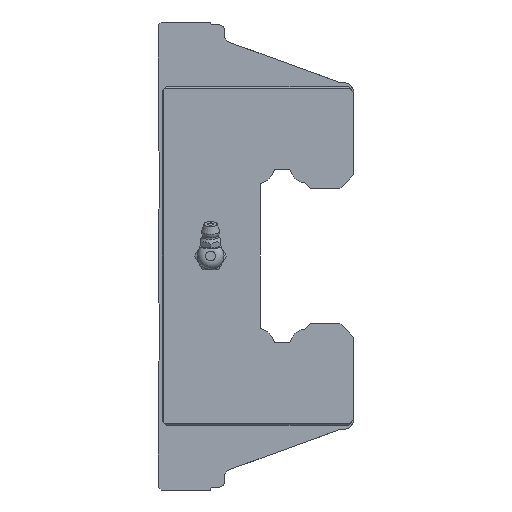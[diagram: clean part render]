
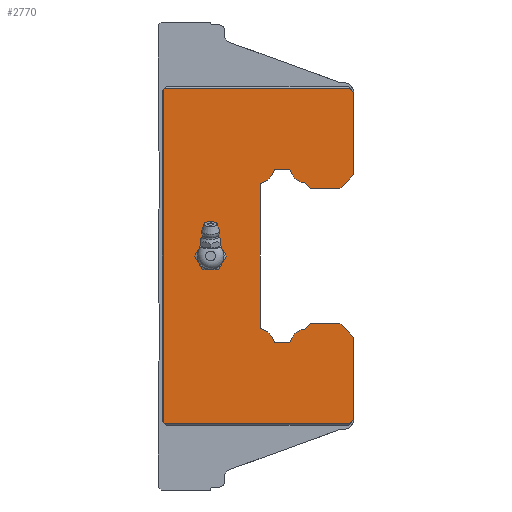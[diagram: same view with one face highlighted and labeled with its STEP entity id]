
A CAD part, left-side view. The second image highlights one B-rep face of the part: STEP entity #2770.
In plain terms, the highlighted planar face has unit normal (-1, 0, 0).
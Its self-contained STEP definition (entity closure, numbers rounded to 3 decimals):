
#188=LINE('',#4126,#450);
#189=LINE('',#4129,#451);
#190=LINE('',#4131,#452);
#191=LINE('',#4133,#453);
#192=LINE('',#4135,#454);
#193=LINE('',#4137,#455);
#194=LINE('',#4139,#456);
#195=LINE('',#4141,#457);
#196=LINE('',#4143,#458);
#197=LINE('',#4145,#459);
#198=LINE('',#4149,#460);
#199=LINE('',#4151,#461);
#200=LINE('',#4153,#462);
#201=LINE('',#4157,#463);
#202=LINE('',#4159,#464);
#203=LINE('',#4161,#465);
#204=LINE('',#4165,#466);
#205=LINE('',#4167,#467);
#206=LINE('',#4169,#468);
#207=LINE('',#4173,#469);
#208=LINE('',#4175,#470);
#209=LINE('',#4177,#471);
#210=LINE('',#4179,#472);
#211=LINE('',#4181,#473);
#450=VECTOR('',#3301,1000.);
#451=VECTOR('',#3302,1000.);
#452=VECTOR('',#3303,1000.);
#453=VECTOR('',#3304,1000.);
#454=VECTOR('',#3305,1000.);
#455=VECTOR('',#3306,1000.);
#456=VECTOR('',#3307,1000.);
#457=VECTOR('',#3308,1000.);
#458=VECTOR('',#3309,1000.);
#459=VECTOR('',#3310,1000.);
#460=VECTOR('',#3313,1000.);
#461=VECTOR('',#3314,1000.);
#462=VECTOR('',#3315,1000.);
#463=VECTOR('',#3318,1000.);
#464=VECTOR('',#3319,1000.);
#465=VECTOR('',#3320,1000.);
#466=VECTOR('',#3323,1000.);
#467=VECTOR('',#3324,1000.);
#468=VECTOR('',#3325,1000.);
#469=VECTOR('',#3328,1000.);
#470=VECTOR('',#3329,1000.);
#471=VECTOR('',#3330,1000.);
#472=VECTOR('',#3331,1000.);
#473=VECTOR('',#3332,1000.);
#727=ORIENTED_EDGE('',*,*,#1517,.T.);
#728=ORIENTED_EDGE('',*,*,#1518,.F.);
#729=ORIENTED_EDGE('',*,*,#1519,.F.);
#730=ORIENTED_EDGE('',*,*,#1520,.T.);
#731=ORIENTED_EDGE('',*,*,#1521,.F.);
#732=ORIENTED_EDGE('',*,*,#1522,.T.);
#733=ORIENTED_EDGE('',*,*,#1523,.F.);
#734=ORIENTED_EDGE('',*,*,#1524,.F.);
#735=ORIENTED_EDGE('',*,*,#1525,.T.);
#736=ORIENTED_EDGE('',*,*,#1526,.T.);
#737=ORIENTED_EDGE('',*,*,#1527,.T.);
#738=ORIENTED_EDGE('',*,*,#1528,.F.);
#739=ORIENTED_EDGE('',*,*,#1529,.T.);
#740=ORIENTED_EDGE('',*,*,#1530,.T.);
#741=ORIENTED_EDGE('',*,*,#1531,.T.);
#742=ORIENTED_EDGE('',*,*,#1532,.F.);
#743=ORIENTED_EDGE('',*,*,#1533,.T.);
#744=ORIENTED_EDGE('',*,*,#1534,.T.);
#745=ORIENTED_EDGE('',*,*,#1535,.T.);
#746=ORIENTED_EDGE('',*,*,#1536,.F.);
#747=ORIENTED_EDGE('',*,*,#1537,.T.);
#748=ORIENTED_EDGE('',*,*,#1538,.T.);
#749=ORIENTED_EDGE('',*,*,#1539,.T.);
#750=ORIENTED_EDGE('',*,*,#1540,.F.);
#751=ORIENTED_EDGE('',*,*,#1541,.T.);
#752=ORIENTED_EDGE('',*,*,#1542,.T.);
#753=ORIENTED_EDGE('',*,*,#1543,.T.);
#754=ORIENTED_EDGE('',*,*,#1544,.F.);
#755=ORIENTED_EDGE('',*,*,#1545,.F.);
#1517=EDGE_CURVE('',#1908,#1908,#2148,.T.);
#1518=EDGE_CURVE('',#1909,#1910,#188,.T.);
#1519=EDGE_CURVE('',#1911,#1909,#189,.T.);
#1520=EDGE_CURVE('',#1911,#1912,#190,.T.);
#1521=EDGE_CURVE('',#1913,#1912,#191,.T.);
#1522=EDGE_CURVE('',#1913,#1914,#192,.T.);
#1523=EDGE_CURVE('',#1915,#1914,#193,.T.);
#1524=EDGE_CURVE('',#1916,#1915,#194,.T.);
#1525=EDGE_CURVE('',#1916,#1917,#195,.T.);
#1526=EDGE_CURVE('',#1917,#1918,#196,.T.);
#1527=EDGE_CURVE('',#1918,#1919,#197,.T.);
#1528=EDGE_CURVE('',#1920,#1919,#2149,.T.);
#1529=EDGE_CURVE('',#1920,#1921,#198,.T.);
#1530=EDGE_CURVE('',#1921,#1922,#199,.T.);
#1531=EDGE_CURVE('',#1922,#1923,#200,.T.);
#1532=EDGE_CURVE('',#1924,#1923,#2150,.T.);
#1533=EDGE_CURVE('',#1924,#1925,#201,.T.);
#1534=EDGE_CURVE('',#1925,#1926,#202,.T.);
#1535=EDGE_CURVE('',#1926,#1927,#203,.T.);
#1536=EDGE_CURVE('',#1928,#1927,#2151,.T.);
#1537=EDGE_CURVE('',#1928,#1929,#204,.T.);
#1538=EDGE_CURVE('',#1929,#1930,#205,.T.);
#1539=EDGE_CURVE('',#1930,#1931,#206,.T.);
#1540=EDGE_CURVE('',#1932,#1931,#2152,.T.);
#1541=EDGE_CURVE('',#1932,#1933,#207,.T.);
#1542=EDGE_CURVE('',#1933,#1934,#208,.T.);
#1543=EDGE_CURVE('',#1934,#1935,#209,.T.);
#1544=EDGE_CURVE('',#1936,#1935,#210,.T.);
#1545=EDGE_CURVE('',#1910,#1936,#211,.T.);
#1908=VERTEX_POINT('',#4125);
#1909=VERTEX_POINT('',#4127);
#1910=VERTEX_POINT('',#4128);
#1911=VERTEX_POINT('',#4130);
#1912=VERTEX_POINT('',#4132);
#1913=VERTEX_POINT('',#4134);
#1914=VERTEX_POINT('',#4136);
#1915=VERTEX_POINT('',#4138);
#1916=VERTEX_POINT('',#4140);
#1917=VERTEX_POINT('',#4142);
#1918=VERTEX_POINT('',#4144);
#1919=VERTEX_POINT('',#4146);
#1920=VERTEX_POINT('',#4148);
#1921=VERTEX_POINT('',#4150);
#1922=VERTEX_POINT('',#4152);
#1923=VERTEX_POINT('',#4154);
#1924=VERTEX_POINT('',#4156);
#1925=VERTEX_POINT('',#4158);
#1926=VERTEX_POINT('',#4160);
#1927=VERTEX_POINT('',#4162);
#1928=VERTEX_POINT('',#4164);
#1929=VERTEX_POINT('',#4166);
#1930=VERTEX_POINT('',#4168);
#1931=VERTEX_POINT('',#4170);
#1932=VERTEX_POINT('',#4172);
#1933=VERTEX_POINT('',#4174);
#1934=VERTEX_POINT('',#4176);
#1935=VERTEX_POINT('',#4178);
#1936=VERTEX_POINT('',#4180);
#2148=CIRCLE('',#2969,4.864);
#2149=CIRCLE('',#2970,4.9);
#2150=CIRCLE('',#2971,4.9);
#2151=CIRCLE('',#2972,4.9);
#2152=CIRCLE('',#2973,4.9);
#2240=EDGE_LOOP('',(#727));
#2241=EDGE_LOOP('',(#728,#729,#730,#731,#732,#733,#734,#735,#736,#737,#738,
#739,#740,#741,#742,#743,#744,#745,#746,#747,#748,#749,#750,#751,#752,#753,
#754,#755));
#2453=FACE_BOUND('',#2240,.T.);
#2454=FACE_BOUND('',#2241,.T.);
#2665=PLANE('',#2968);
#2770=ADVANCED_FACE('',(#2453,#2454),#2665,.F.);
#2968=AXIS2_PLACEMENT_3D('',#4123,#3297,#3298);
#2969=AXIS2_PLACEMENT_3D('',#4124,#3299,#3300);
#2970=AXIS2_PLACEMENT_3D('',#4147,#3311,#3312);
#2971=AXIS2_PLACEMENT_3D('',#4155,#3316,#3317);
#2972=AXIS2_PLACEMENT_3D('',#4163,#3321,#3322);
#2973=AXIS2_PLACEMENT_3D('',#4171,#3326,#3327);
#3297=DIRECTION('',(1.,0.,0.));
#3298=DIRECTION('',(0.,0.,-1.));
#3299=DIRECTION('',(1.,0.,0.));
#3300=DIRECTION('',(0.,0.,-1.));
#3301=DIRECTION('',(0.,-1.,0.));
#3302=DIRECTION('',(0.,-0.707,0.707));
#3303=DIRECTION('',(0.,0.,-1.));
#3304=DIRECTION('',(0.,0.707,0.707));
#3305=DIRECTION('',(0.,-1.,0.));
#3306=DIRECTION('',(0.,0.707,-0.707));
#3307=DIRECTION('',(0.,0.,-1.));
#3308=DIRECTION('',(0.,0.707,0.707));
#3309=DIRECTION('',(0.,1.,0.));
#3310=DIRECTION('',(0.,0.707,-0.707));
#3311=DIRECTION('',(1.,0.,0.));
#3312=DIRECTION('',(0.,0.,-1.));
#3313=DIRECTION('',(0.,0.425,-0.905));
#3314=DIRECTION('',(0.,1.,0.));
#3315=DIRECTION('',(0.,0.425,0.905));
#3316=DIRECTION('',(1.,0.,0.));
#3317=DIRECTION('',(0.,0.,-1.));
#3318=DIRECTION('',(0.,0.905,0.425));
#3319=DIRECTION('',(0.,0.,1.));
#3320=DIRECTION('',(0.,-0.905,0.425));
#3321=DIRECTION('',(1.,0.,0.));
#3322=DIRECTION('',(0.,0.,-1.));
#3323=DIRECTION('',(0.,-0.425,0.905));
#3324=DIRECTION('',(0.,-1.,0.));
#3325=DIRECTION('',(0.,-0.425,-0.905));
#3326=DIRECTION('',(1.,0.,0.));
#3327=DIRECTION('',(0.,0.,-1.));
#3328=DIRECTION('',(0.,-0.707,-0.707));
#3329=DIRECTION('',(0.,-1.,0.));
#3330=DIRECTION('',(0.,-0.707,0.707));
#3331=DIRECTION('',(0.,0.,-1.));
#3332=DIRECTION('',(0.,-0.707,-0.707));
#4123=CARTESIAN_POINT('',(-136.,0.,0.));
#4124=CARTESIAN_POINT('',(-136.,52.,0.));
#4125=CARTESIAN_POINT('',(-136.,52.,-4.864));
#4126=CARTESIAN_POINT('',(-136.,71.,61.));
#4127=CARTESIAN_POINT('',(-136.,68.5,61.));
#4128=CARTESIAN_POINT('',(-136.,1.5,61.));
#4129=CARTESIAN_POINT('',(-136.,69.5,60.));
#4130=CARTESIAN_POINT('',(-136.,69.,60.5));
#4131=CARTESIAN_POINT('',(-136.,69.,61.5));
#4132=CARTESIAN_POINT('',(-136.,69.,-60.5));
#4133=CARTESIAN_POINT('',(-136.,68.,-61.5));
#4134=CARTESIAN_POINT('',(-136.,68.5,-61.));
#4135=CARTESIAN_POINT('',(-136.,71.,-61.));
#4136=CARTESIAN_POINT('',(-136.,1.5,-61.));
#4137=CARTESIAN_POINT('',(-136.,0.,-59.5));
#4138=CARTESIAN_POINT('',(-136.,0.,-59.5));
#4139=CARTESIAN_POINT('',(-136.,0.,59.5));
#4140=CARTESIAN_POINT('',(-136.,0.,-29.5));
#4141=CARTESIAN_POINT('',(-136.,-2.,-31.5));
#4142=CARTESIAN_POINT('',(-136.,5.,-24.5));
#4143=CARTESIAN_POINT('',(-136.,5.,-24.5));
#4144=CARTESIAN_POINT('',(-136.,15.8,-24.5));
#4145=CARTESIAN_POINT('',(-136.,15.8,-24.5));
#4146=CARTESIAN_POINT('',(-136.,17.998,-26.698));
#4147=CARTESIAN_POINT('',(-136.,17.903,-31.597));
#4148=CARTESIAN_POINT('',(-136.,22.338,-29.514));
#4149=CARTESIAN_POINT('',(-136.,22.338,-29.514));
#4150=CARTESIAN_POINT('',(-136.,23.271,-31.5));
#4151=CARTESIAN_POINT('',(-136.,23.271,-31.5));
#4152=CARTESIAN_POINT('',(-136.,28.73,-31.5));
#4153=CARTESIAN_POINT('',(-136.,28.73,-31.5));
#4154=CARTESIAN_POINT('',(-136.,29.661,-29.516));
#4155=CARTESIAN_POINT('',(-136.,34.097,-31.597));
#4156=CARTESIAN_POINT('',(-136.,32.016,-27.161));
#4157=CARTESIAN_POINT('',(-136.,32.016,-27.161));
#4158=CARTESIAN_POINT('',(-136.,34.,-26.23));
#4159=CARTESIAN_POINT('',(-136.,34.,-26.23));
#4160=CARTESIAN_POINT('',(-136.,34.,26.23));
#4161=CARTESIAN_POINT('',(-136.,34.,26.23));
#4162=CARTESIAN_POINT('',(-136.,32.016,27.161));
#4163=CARTESIAN_POINT('',(-136.,34.097,31.597));
#4164=CARTESIAN_POINT('',(-136.,29.661,29.516));
#4165=CARTESIAN_POINT('',(-136.,29.661,29.516));
#4166=CARTESIAN_POINT('',(-136.,28.73,31.5));
#4167=CARTESIAN_POINT('',(-136.,28.73,31.5));
#4168=CARTESIAN_POINT('',(-136.,23.271,31.5));
#4169=CARTESIAN_POINT('',(-136.,23.271,31.5));
#4170=CARTESIAN_POINT('',(-136.,22.338,29.514));
#4171=CARTESIAN_POINT('',(-136.,17.903,31.597));
#4172=CARTESIAN_POINT('',(-136.,17.998,26.698));
#4173=CARTESIAN_POINT('',(-136.,17.998,26.698));
#4174=CARTESIAN_POINT('',(-136.,15.8,24.5));
#4175=CARTESIAN_POINT('',(-136.,15.8,24.5));
#4176=CARTESIAN_POINT('',(-136.,5.,24.5));
#4177=CARTESIAN_POINT('',(-136.,5.,24.5));
#4178=CARTESIAN_POINT('',(-136.,0.,29.5));
#4179=CARTESIAN_POINT('',(-136.,0.,59.5));
#4180=CARTESIAN_POINT('',(-136.,0.,59.5));
#4181=CARTESIAN_POINT('',(-136.,2.,61.5));
